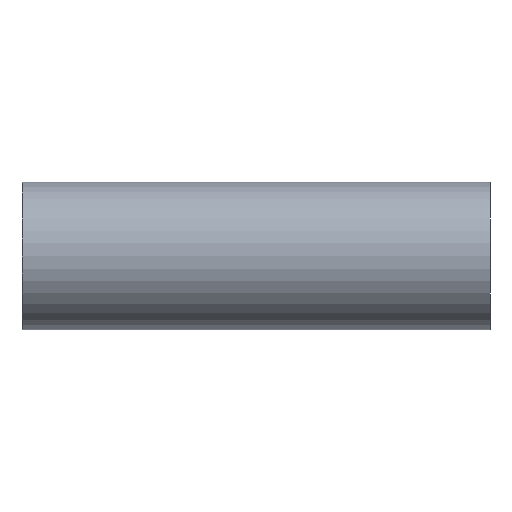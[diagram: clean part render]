
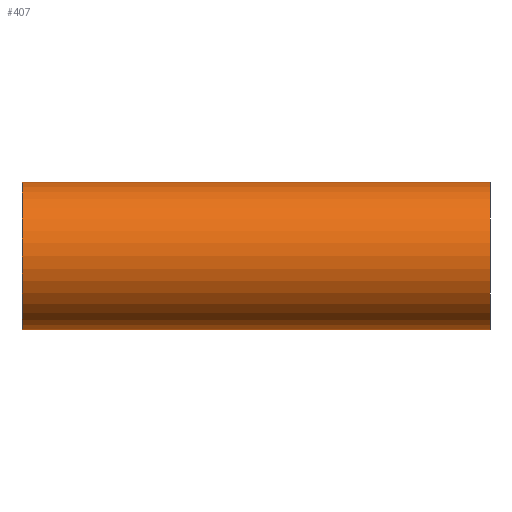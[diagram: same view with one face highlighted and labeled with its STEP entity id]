
A CAD part, front view. The second image highlights one B-rep face of the part: STEP entity #407.
In plain terms, the highlighted cylindrical face has radius 19.05 mm (diameter 38.1 mm), a partial arc.
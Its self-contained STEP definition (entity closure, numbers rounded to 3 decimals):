
#22 = CIRCLE ( 'NONE', #564, 19.05 ) ;
#24 = CARTESIAN_POINT ( 'NONE',  ( -60.3, 0., -19.05 ) ) ;
#31 = CIRCLE ( 'NONE', #43, 19.05 ) ;
#43 = AXIS2_PLACEMENT_3D ( 'NONE', #695, #357, #755 ) ;
#82 = VECTOR ( 'NONE', #108, 1000. ) ;
#83 = CARTESIAN_POINT ( 'NONE',  ( -60.3, 0., 19.05 ) ) ;
#89 = EDGE_CURVE ( 'NONE', #715, #422, #554, .T. ) ;
#103 = ORIENTED_EDGE ( 'NONE', *, *, #306, .T. ) ;
#108 = DIRECTION ( 'NONE',  ( 1., 0., 0. ) ) ;
#132 = VERTEX_POINT ( 'NONE', #83 ) ;
#134 = DIRECTION ( 'NONE',  ( 0., 0., -1. ) ) ;
#212 = CARTESIAN_POINT ( 'NONE',  ( -60.3, 0., 0. ) ) ;
#292 = CARTESIAN_POINT ( 'NONE',  ( 60.3, 0., 19.05 ) ) ;
#295 = LINE ( 'NONE', #494, #735 ) ;
#306 = EDGE_CURVE ( 'NONE', #422, #350, #31, .T. ) ;
#319 = EDGE_LOOP ( 'NONE', ( #738, #439, #474, #103 ) ) ;
#345 = DIRECTION ( 'NONE',  ( 1., 0., 0. ) ) ;
#350 = VERTEX_POINT ( 'NONE', #292 ) ;
#357 = DIRECTION ( 'NONE',  ( -1., 0., 0. ) ) ;
#384 = CARTESIAN_POINT ( 'NONE',  ( -60.3, 0., -19.05 ) ) ;
#407 = ADVANCED_FACE ( 'NONE', ( #614 ), #413, .T. ) ;
#413 = CYLINDRICAL_SURFACE ( 'NONE', #570, 19.05 ) ;
#422 = VERTEX_POINT ( 'NONE', #508 ) ;
#439 = ORIENTED_EDGE ( 'NONE', *, *, #724, .T. ) ;
#474 = ORIENTED_EDGE ( 'NONE', *, *, #89, .T. ) ;
#494 = CARTESIAN_POINT ( 'NONE',  ( -60.3, 0., 19.05 ) ) ;
#508 = CARTESIAN_POINT ( 'NONE',  ( 60.3, 0., -19.05 ) ) ;
#554 = LINE ( 'NONE', #384, #82 ) ;
#564 = AXIS2_PLACEMENT_3D ( 'NONE', #212, #726, #134 ) ;
#570 = AXIS2_PLACEMENT_3D ( 'NONE', #722, #669, #667 ) ;
#614 = FACE_OUTER_BOUND ( 'NONE', #319, .T. ) ;
#661 = EDGE_CURVE ( 'NONE', #132, #350, #295, .T. ) ;
#667 = DIRECTION ( 'NONE',  ( 0., 0., -1. ) ) ;
#669 = DIRECTION ( 'NONE',  ( 1., 0., 0. ) ) ;
#695 = CARTESIAN_POINT ( 'NONE',  ( 60.3, 0., 0. ) ) ;
#715 = VERTEX_POINT ( 'NONE', #24 ) ;
#722 = CARTESIAN_POINT ( 'NONE',  ( -60.3, 0., 0. ) ) ;
#724 = EDGE_CURVE ( 'NONE', #132, #715, #22, .T. ) ;
#726 = DIRECTION ( 'NONE',  ( 1., 0., 0. ) ) ;
#735 = VECTOR ( 'NONE', #345, 1000. ) ;
#738 = ORIENTED_EDGE ( 'NONE', *, *, #661, .F. ) ;
#755 = DIRECTION ( 'NONE',  ( 0., 0., -1. ) ) ;
